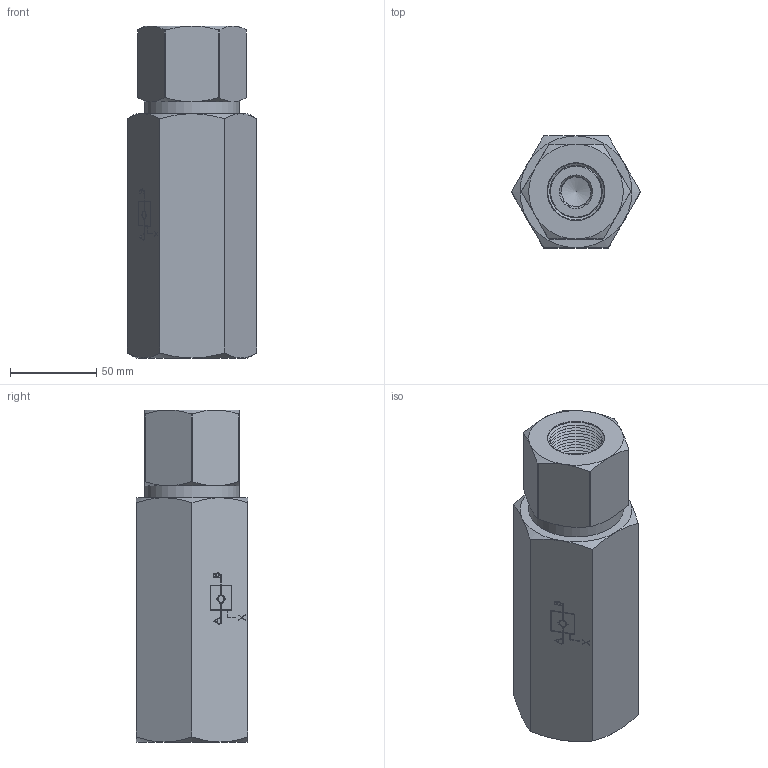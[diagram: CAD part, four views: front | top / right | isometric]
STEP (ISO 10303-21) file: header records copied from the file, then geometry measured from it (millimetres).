
FILE_DESCRIPTION (( 'STEP AP214' ), '1' );
FILE_NAME ('257-7-100.STEP', '2025-01-23T09:36:12', ( '' ), ( '' ), 'SwSTEP 2.0', 'SolidWorks 2024', '' );
FILE_SCHEMA (( 'AUTOMOTIVE_DESIGN' ));
Length unit declared in the file: millimetre
Products named in the file (9): CONNESSIONE UNIDIREZIONALE 257-7.033.00.0-100; CORPO VALVOLA 257-7.001.00.0-100; OR 149; FONDELLO FILETTATO 257-5.010.00.0-100; PISTONE PILOTAGGIO 257-7.019.00.1-100; 257-7-100; VALVOLA UNIDIREZIONALE PILOTATA 257-7.041.00.0-100; MOLLA 2 BAR  257-6.009.00.0-100_COMPRESSA; VALVOLA TENUTA METALLICA 257-5.008.00.0-100
Assembly tree (8 placements, depth 3):
  257-7-100
    CORPO VALVOLA 257-7.001.00.0-100
    OR 149
    PISTONE PILOTAGGIO 257-7.019.00.1-100
    VALVOLA UNIDIREZIONALE PILOTATA 257-7.041.00.0-100
      CONNESSIONE UNIDIREZIONALE 257-7.033.00.0-100
      FONDELLO FILETTATO 257-5.010.00.0-100
      VALVOLA TENUTA METALLICA 257-5.008.00.0-100
      MOLLA 2 BAR  257-6.009.00.0-100_COMPRESSA
Bounding box: 75.06 x 65 x 193 mm (x, y, z)
Volume: 534787.5 mm3; surface area: 125853 mm2
Topology: 7 solids, 7 shells, 705 faces, 1656 edges, 1029 vertices
Faces by surface type: plane 293, cone 248, cylinder 94, bspline 67, torus 3
Full cylindrical faces by diameter (mm): 3.992 x1, 6.5 x6, 8 x1, 9 x4, 18 x3, 19 x1, 22.5 x1, 23 x5, 23.3 x1, 24 x8, 26 x1, 28.8 x6, 29.5 x8, 30.5 x1, 32 x1, 34 x1, 38 x1, 43.2 x5, 44 x7, 44.6 x1, 46 x3, 55 x1
Entity records: 24897 total; most frequent: CARTESIAN_POINT 10317, DIRECTION 2788, ORIENTED_EDGE 2622, EDGE_CURVE 1311, EDGE_LOOP 1090, AXIS2_PLACEMENT_3D 1068, VERTEX_POINT 979, FACE_OUTER_BOUND 774
